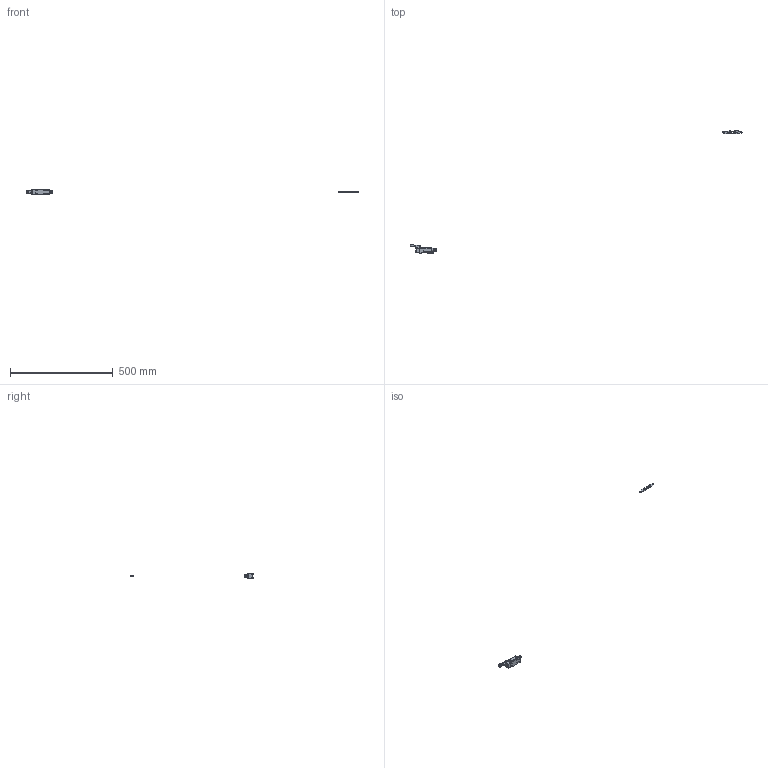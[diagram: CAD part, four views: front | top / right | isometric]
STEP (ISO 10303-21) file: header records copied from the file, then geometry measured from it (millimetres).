
FILE_DESCRIPTION(('FreeCAD Model'),'2;1');
FILE_NAME('Open CASCADE Shape Model','2026-09-09T09:20:07',(''),(''), 'Open CASCADE STEP processor 7.8','FreeCAD','Unknown');
FILE_SCHEMA(('AUTOMOTIVE_DESIGN { 1 0 10303 214 1 1 1 1 }'));
Length unit declared in the file: millimetre
Products named in the file (15): FM8104; 8104quan3d; 8104quan3d001; 8104quan3d002; 8104quan3d003; 8104quan3d004; 8104quan3d005; 8104quan3d006; 8104quan3d007; 8104quan3d008; 8104quan3d009; 8104quan3d010; 8104quan3d011; 8104quan3d012; 8104quan3d013
Assembly tree (14 placements, depth 2):
  FM8104
    8104quan3d
    8104quan3d001
    8104quan3d002
    8104quan3d003
    8104quan3d004
    8104quan3d005
    8104quan3d006
    8104quan3d007
    8104quan3d008
    8104quan3d009
    8104quan3d010
    8104quan3d011
    8104quan3d012
    8104quan3d013
Bounding box: 1615.23 x 593.57 x 28.8 mm (x, y, z)
Volume: 38067 mm3; surface area: 28059 mm2
Topology: 14 solids, 14 shells, 308 faces, 740 edges, 461 vertices
Faces by surface type: plane 157, cylinder 92, cone 19, extrusion 16, bspline 11, torus 7, sphere 6
Full cylindrical faces by diameter (mm): 3 x3, 4.1 x4, 4.5 x1, 5 x5, 6 x2, 6.2 x1, 8.5 x2, 14 x2, 18 x1
Entity records: 14164 total; most frequent: CARTESIAN_POINT 6749, ORIENTED_EDGE 1468, DIRECTION 1432, EDGE_CURVE 734, AXIS2_PLACEMENT_3D 513, VERTEX_POINT 461, VECTOR 406, LINE 390
